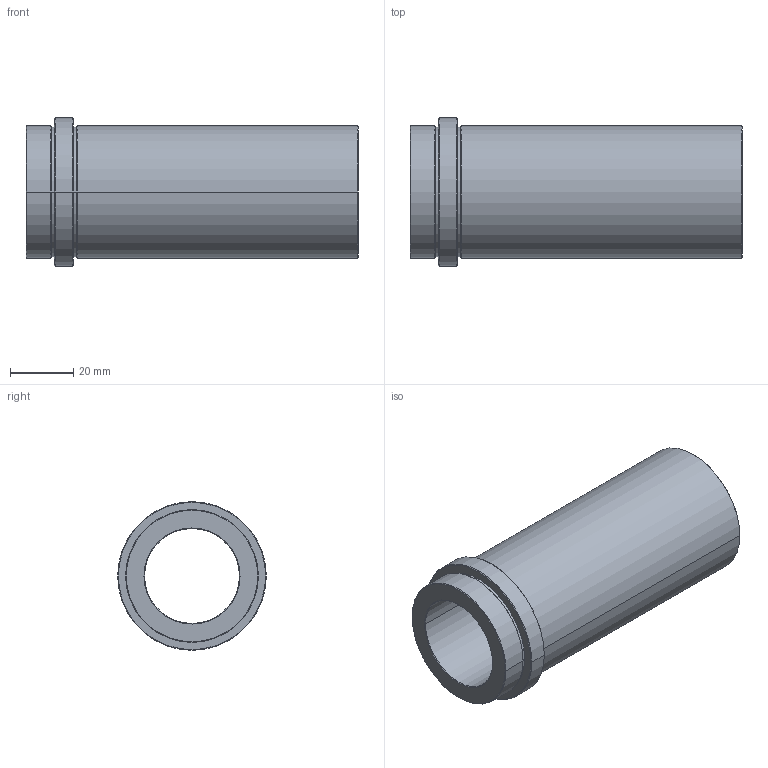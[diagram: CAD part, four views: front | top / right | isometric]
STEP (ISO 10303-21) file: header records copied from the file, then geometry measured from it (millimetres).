
FILE_DESCRIPTION (( 'STEP AP214' ), '1' );
FILE_NAME ('R04_096x30.STEP', '2015-03-05T14:59:40', ( 'TGL' ), ( '' ), 'SwSTEP 2.0', 'SolidWorks 2011', '' );
FILE_SCHEMA (( 'AUTOMOTIVE_DESIGN' ));
Length unit declared in the file: millimetre
Products named in the file (1): R04_096x30
Bounding box: 105 x 47 x 47 mm (x, y, z)
Volume: 72804.5 mm3; surface area: 25882.4 mm2
Topology: 1 solids, 1 shells, 34 faces, 68 edges, 40 vertices
Faces by surface type: cone 14, cylinder 12, plane 6, torus 2
Entity records: 924 total; most frequent: DIRECTION 180, CARTESIAN_POINT 143, ORIENTED_EDGE 136, AXIS2_PLACEMENT_3D 77, EDGE_CURVE 68, CIRCLE 42, EDGE_LOOP 40, VERTEX_POINT 40
